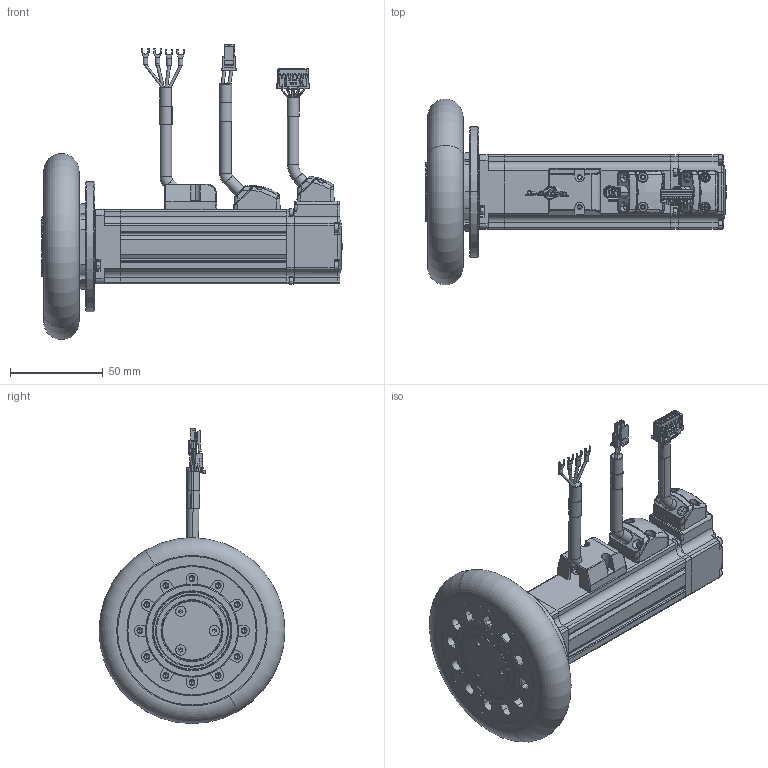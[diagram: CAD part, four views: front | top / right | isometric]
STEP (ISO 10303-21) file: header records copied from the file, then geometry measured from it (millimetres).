
FILE_DESCRIPTION((''),'2;1');
FILE_NAME('MSD100--010-30JSL-000_ASM','2026-05-22T11:29:29',('MS28159'),(''),'CREO PARAMETRIC BY PTC INC, 2018100','CREO PARAMETRIC BY PTC INC, 2018100','');
FILE_SCHEMA(('CONFIG_CONTROL_DESIGN'));
Length unit declared in the file: millimetre
Products named in the file (18): 4294404004348_-1720001_1; 4294404004348_-6520001_1; NONE_1_2_1; 4294404004348_-1310001_1; 0226-42191201014230001_1; 4294404004348_-1850001_1; 4294404004348_-1860001_1; 4294404004348_-1930001_1; 4294404004348_-1940001_1; 4294404004348_-1950001_1; AEQ-042C-004-01__X2_65E0530580F_ASM; 2_100_1-23134; 3698201102390_40SV__X2_530580_1_ASM; ASM0007_ASM_1_ASM; AEQ062-XX-XX_ASM_1_ASM; 10000; SM0402-SL-KCY-BNV_ASM; MSD100--010-30JSL-000_ASM
Assembly tree (17 placements, depth 5):
  MSD100--010-30JSL-000_ASM
    AEQ062-XX-XX_ASM_1_ASM
      AEQ-042C-004-01__X2_65E0530580F_ASM
        4294404004348_-1720001_1
        4294404004348_-6520001_1
        NONE_1_2_1
        4294404004348_-1310001_1
        0226-42191201014230001_1
        4294404004348_-1850001_1
        4294404004348_-1860001_1
        4294404004348_-1930001_1
        4294404004348_-1940001_1
        4294404004348_-1950001_1
      ASM0007_ASM_1_ASM
        3698201102390_40SV__X2_530580_1_ASM
          2_100_1-23134
    10000
    SM0402-SL-KCY-BNV_ASM
Bounding box: 161.5 x 100 x 158.82 mm (x, y, z)
Volume: 144457.1 mm3; surface area: 152926 mm2
Topology: 13 solids, 68 shells, 3440 faces, 8484 edges, 5230 vertices
Faces by surface type: plane 1420, cylinder 1131, cone 343, torus 218, bspline 183, extrusion 75, sphere 70
Entity records: 122849 total; most frequent: CARTESIAN_POINT 41161, DIRECTION 17245, ORIENTED_EDGE 16618, EDGE_CURVE 8313, AXIS2_PLACEMENT_3D 6397, VERTEX_POINT 5230, VECTOR 4451, LINE 4376
